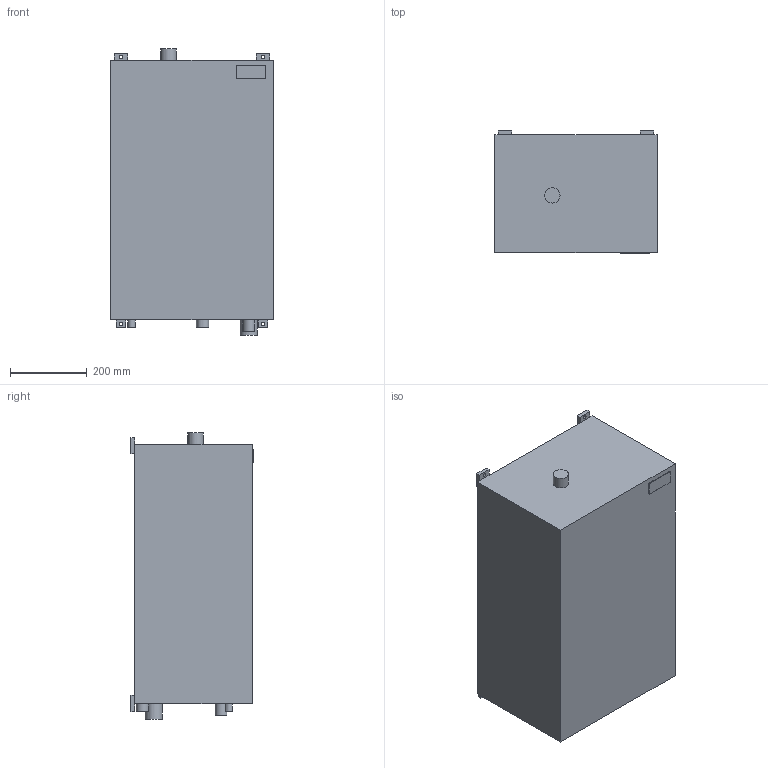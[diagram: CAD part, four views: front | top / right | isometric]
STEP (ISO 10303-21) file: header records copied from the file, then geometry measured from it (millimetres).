
FILE_DESCRIPTION(/* description */ ('AP214'),/* implementation_level */ '2;1');
FILE_NAME(/* name */ 'SLE20-30_SLH15-25-V',/* time_stamp */ '2018-04-05T09:57:55+02:00',/* author */ ('M.Schreck'),/* organization */ ('Hygromatik'),/* preprocessor_version */ 'ST-DEVELOPER v16.7',/* originating_system */ 'DEX',/* authorisation */ $);
FILE_SCHEMA (('AUTOMOTIVE_DESIGN {1 0 10303 214 3 1 1}'));
Length unit declared in the file: millimetre
Products named in the file (1): SLE20-30_SLH15-25-V
Bounding box: 423 x 318.4 x 744.5 mm (x, y, z)
Volume: 87566504.3 mm3; surface area: 1269735.8 mm2
Topology: 1 solids, 1 shells, 49 faces, 121 edges, 80 vertices
Faces by surface type: plane 40, cylinder 9
Full cylindrical faces by diameter (mm): 9 x4, 19.05 x1, 30 x1, 32 x1, 40 x1, 44.523 x1
Entity records: 1384 total; most frequent: CARTESIAN_POINT 230, DIRECTION 224, ORIENTED_EDGE 212, EDGE_CURVE 106, LINE 88, VECTOR 88, VERTEX_POINT 74, EDGE_LOOP 72
